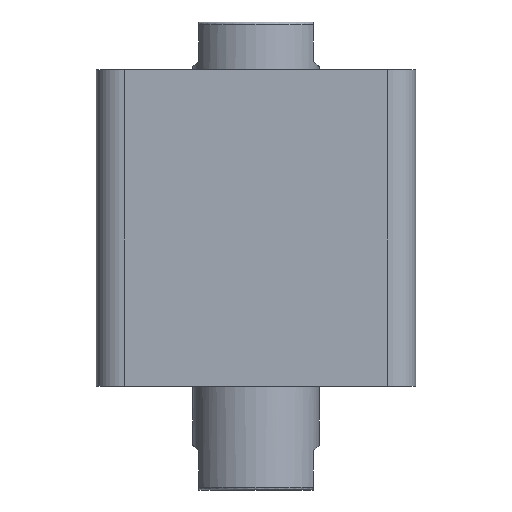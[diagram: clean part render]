
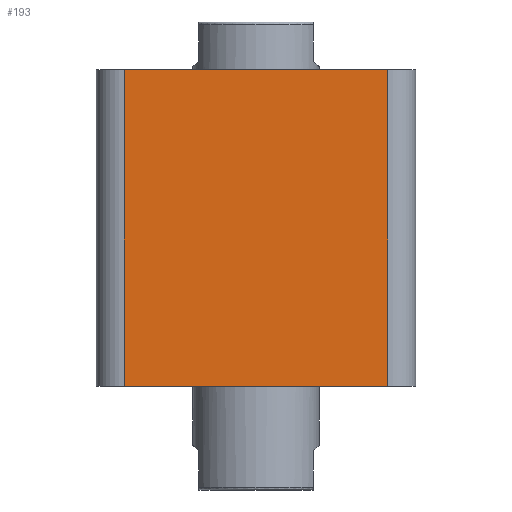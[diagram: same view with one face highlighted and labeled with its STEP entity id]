
A CAD part, front view. The second image highlights one B-rep face of the part: STEP entity #193.
In plain terms, the highlighted planar face has unit normal (0, -1, 0).
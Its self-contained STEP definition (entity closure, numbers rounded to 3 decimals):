
#2 = DIRECTION ( 'NONE',  ( 0., 0., 1. ) ) ;
#4 = DIRECTION ( 'NONE',  ( 0., 1., 0. ) ) ;
#6 = PLANE ( 'NONE',  #412 ) ;
#9 = CARTESIAN_POINT ( 'NONE',  ( -57., -57., 113. ) ) ;
#193 = ADVANCED_FACE ( 'NONE', ( #1154 ), #6, .F. ) ;
#412 = AXIS2_PLACEMENT_3D ( 'NONE', #9, #4, #2 ) ;
#799 = ORIENTED_EDGE ( 'NONE', *, *, #3074, .T. ) ;
#800 = ORIENTED_EDGE ( 'NONE', *, *, #3073, .F. ) ;
#801 = ORIENTED_EDGE ( 'NONE', *, *, #3072, .T. ) ;
#802 = ORIENTED_EDGE ( 'NONE', *, *, #3071, .T. ) ;
#967 = EDGE_LOOP ( 'NONE', ( #802, #801, #800, #799 ) ) ;
#1154 = FACE_OUTER_BOUND ( 'NONE', #967, .T. ) ;
#1487 = LINE ( 'NONE', #2804, #1495 ) ;
#1490 = LINE ( 'NONE', #2814, #1493 ) ;
#1493 = VECTOR ( 'NONE', #2815, 1000. ) ;
#1494 = LINE ( 'NONE', #2817, #1497 ) ;
#1495 = VECTOR ( 'NONE', #2816, 1000. ) ;
#1496 = LINE ( 'NONE', #2819, #1499 ) ;
#1497 = VECTOR ( 'NONE', #2818, 1000. ) ;
#1499 = VECTOR ( 'NONE', #2820, 1000. ) ;
#2085 = VERTEX_POINT ( 'NONE', #2751 ) ;
#2086 = VERTEX_POINT ( 'NONE', #2752 ) ;
#2087 = VERTEX_POINT ( 'NONE', #2753 ) ;
#2751 = CARTESIAN_POINT ( 'NONE',  ( 47., -57., 113. ) ) ;
#2752 = CARTESIAN_POINT ( 'NONE',  ( -47., -57., 113. ) ) ;
#2753 = CARTESIAN_POINT ( 'NONE',  ( 47., -57., 0. ) ) ;
#2804 = CARTESIAN_POINT ( 'NONE',  ( 47., -57., 113. ) ) ;
#2814 = CARTESIAN_POINT ( 'NONE',  ( -57., -57., 0. ) ) ;
#2815 = DIRECTION ( 'NONE',  ( 1., 0., 0. ) ) ;
#2816 = DIRECTION ( 'NONE',  ( 0., 0., 1. ) ) ;
#2817 = CARTESIAN_POINT ( 'NONE',  ( -57., -57., 113. ) ) ;
#2818 = DIRECTION ( 'NONE',  ( 1., 0., 0. ) ) ;
#2819 = CARTESIAN_POINT ( 'NONE',  ( -47., -57., 113. ) ) ;
#2820 = DIRECTION ( 'NONE',  ( 0., 0., -1. ) ) ;
#2952 = CARTESIAN_POINT ( 'NONE',  ( -47., -57., 0. ) ) ;
#3071 = EDGE_CURVE ( 'NONE', #3254, #2087, #1490, .T. ) ;
#3072 = EDGE_CURVE ( 'NONE', #2087, #2085, #1487, .T. ) ;
#3073 = EDGE_CURVE ( 'NONE', #2086, #2085, #1494, .T. ) ;
#3074 = EDGE_CURVE ( 'NONE', #2086, #3254, #1496, .T. ) ;
#3254 = VERTEX_POINT ( 'NONE', #2952 ) ;
